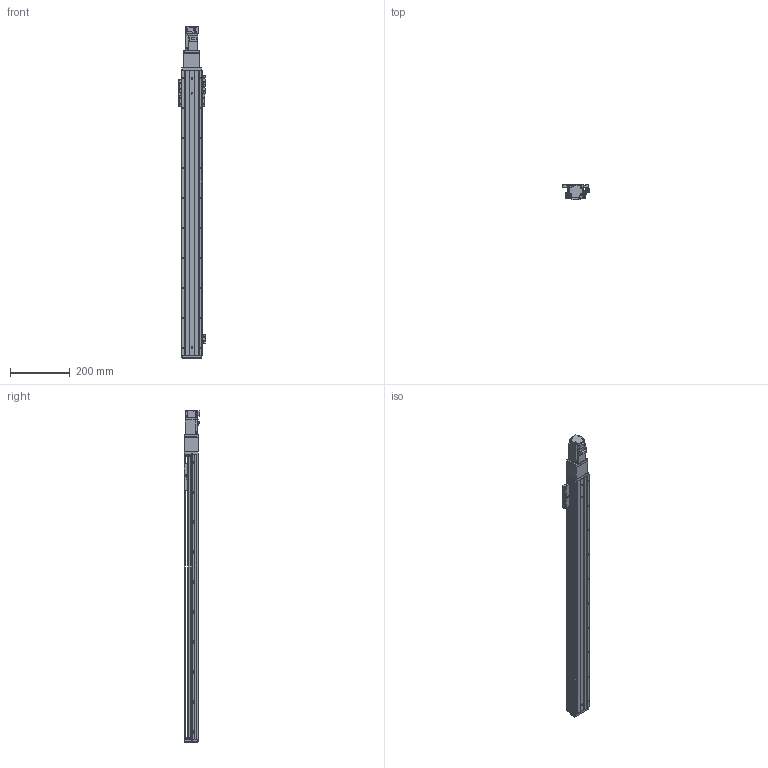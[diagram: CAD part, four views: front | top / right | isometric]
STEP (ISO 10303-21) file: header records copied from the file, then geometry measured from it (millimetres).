
FILE_DESCRIPTION (( 'STEP AP203' ), '1' );
FILE_NAME ('KTHAL60-800-BC-M10-C4L.step', '2022-03-19T08:36:15', ( '微软用户' ), ( '微软中国' ), 'SwSTEP 2.0', 'SolidWorks 2020', '' );
FILE_SCHEMA (( 'CONFIG_CONTROL_DESIGN' ));
Length unit declared in the file: millimetre
Products named in the file (18): KTHA60-005; GBT77-2000M3-3; KTHAL60-800-BC-M10-C4L; GB¨uT 70.2-M3¡Á5_M3¡Á6; GBT 70.1-M3℅6; GBT 70.3-M3℅6; CTHA60-016; EE_SX911P_R; CTHA60-006-2_CTHA60-006-2; KTHA60-001_950; CTHA60-017; CTHA60-027; KTHLA60-002; CTHA60-021; CTHA60-013; KTHA60-004; GBT 70.1-M4×16; HG-KR13（三菱）
Assembly tree (50 placements, depth 2):
  KTHAL60-800-BC-M10-C4L
    KTHA60-001_950
    KTHLA60-002
    KTHA60-004
    KTHA60-005
    GB¨uT 70.2-M3¡Á5_M3¡Á6  x5
    GBT 70.3-M3℅6  x6
    EE_SX911P_R  x3
    CTHA60-017  x3
    CTHA60-021  x2
    GBT 70.1-M4×16  x10
    GBT77-2000M3-3  x6
    GBT 70.1-M3℅6  x6
    CTHA60-016
    CTHA60-006-2_CTHA60-006-2
    CTHA60-027
    CTHA60-013
    HG-KR13（三菱）
Bounding box: 87.82 x 53.3 x 1108.6 mm (x, y, z)
Volume: 1934065.1 mm3; surface area: 497777.8 mm2
Topology: 53 solids, 53 shells, 2260 faces, 5386 edges, 3309 vertices
Faces by surface type: plane 1318, cylinder 543, cone 299, torus 86, sphere 14
Entity records: 38650 total; most frequent: CARTESIAN_POINT 6362, DIRECTION 6240, ORIENTED_EDGE 5976, EDGE_CURVE 2988, LINE 2138, VECTOR 2138, AXIS2_PLACEMENT_3D 2051, VERTEX_POINT 1877
